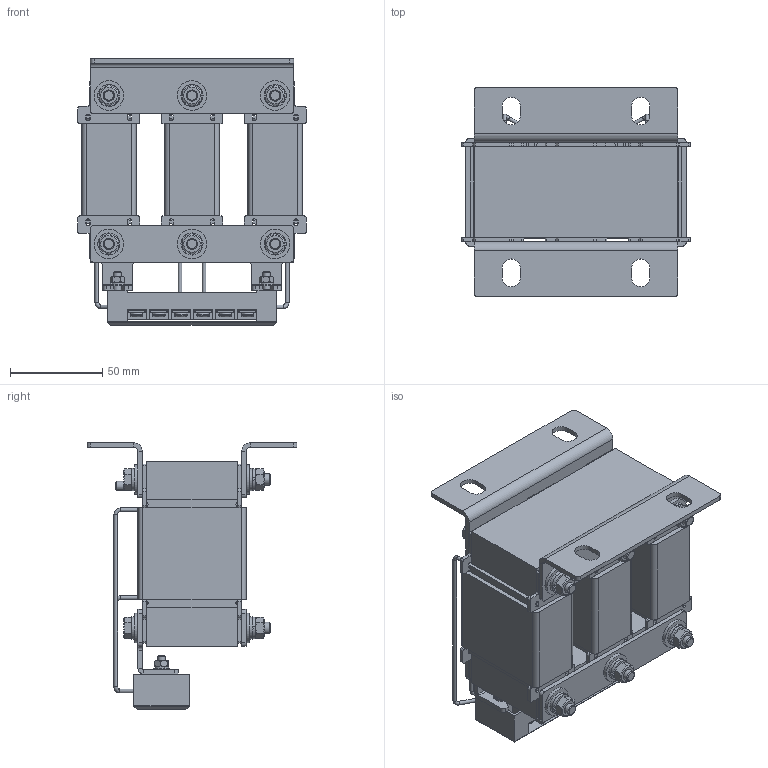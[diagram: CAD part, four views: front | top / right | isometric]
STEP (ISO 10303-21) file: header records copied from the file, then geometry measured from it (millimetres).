
FILE_DESCRIPTION (( 'STEP AP203' ), '1' );
FILE_NAME ('Ñåòåâîé äðîññåëü _ ISF-7.5_20.5-4.STEP', '2026-07-22T06:43:44', ( '' ), ( '' ), 'SwSTEP 2.0', 'SolidWorks 2021', '' );
FILE_SCHEMA (( 'CONFIG_CONTROL_DESIGN' ));
Length unit declared in the file: millimetre
Products named in the file (30): Ëàïà _ 5.5-22_‘â ­¤ àâ ¯®¤ è¯¨«ìªã 01; Êàòóøêà _ 7.5_‹¥¢ ï; Øàéáà ïëîñêàÿ DIN 125 (A)_Œ4; Ëàïà ñî øïèëüêîé çàçåìëåíèÿ _ 5.5-22_‘â ­¤ àâ 01; Ñåòåâîé äðîññåëü _ ISF-7.5_20.5-4; Êàòóøêà ñ êàðêàñîì _ 7.5_–¥­âà «ì­ ï; Óãîëîê êëåììíèêà _ 5.5-7.5_80; ������� � �������� _ 7.5_�ࠢ��; ﾑ褞蒟韭 _ ISF-7.5_01; 昢膼瘔 7.5; Êàòóøêà ñ êàðêàñîì _ 7.5_‹¥¢ ï; Ñòåíêà êàðêàñà êàòóøêè ïîïåðå÷íàÿ _ 7.5_04; Ãàéêà DIN 934_Œ4; Âèíò DIN 7985 PH_Œ4å10; Êðûøêà êëåììíîãî òåðìèíàëà TB-2506 ; Øàéáà ïðóæèííàÿ DIN 127 (A)_Œ4; ������� _ 7.5_�ࠢ��; Êàðêàñ êàòóøêè _ 7.5_04; 肃镟 _ 5.5-22_戔牠噔 01; 孰屐祉 蝈痨桧嚯 TB-2506; Êàòóøêà _ 7.5_–¥­âà «ì­ ï; Øàéáà ïëîñêàÿ DIN 125 (A)_Œ6; Øïèëüêà ïðèâàðíàÿ_Œ5å12; Ñòåíêà êàðêàñà êàòóøêè ïðîäîëüíàÿ _ 7.5_04; Ïëàñòèíà ïðèæèìíàÿ _ 5.5-22_01; Øàéáà ïëîñêàÿ DIN 9021_Œ6 ¯®«¨ ¬¨¤; Ãàéêà DIN 934_Œ6; Áîëò DIN 933_Œ6å75 (-); Øàéáà ïðóæèííàÿ DIN 127 (A)_Œ6; Êîðïóñ êëåììíîãî òåðìèíàëà TB-2506
Assembly tree (74 placements, depth 5):
  Ñåòåâîé äðîññåëü _ ISF-7.5_20.5-4
    ﾑ褞蒟韭 _ ISF-7.5_01
      ������� � �������� _ 7.5_�ࠢ��
        Êàðêàñ êàòóøêè _ 7.5_04
          Ñòåíêà êàðêàñà êàòóøêè ïðîäîëüíàÿ _ 7.5_04  x2
          Ñòåíêà êàðêàñà êàòóøêè ïîïåðå÷íàÿ _ 7.5_04  x2
        ������� _ 7.5_�ࠢ��
      Êàòóøêà ñ êàðêàñîì _ 7.5_–¥­âà «ì­ ï
        Êàðêàñ êàòóøêè _ 7.5_04
          Ñòåíêà êàðêàñà êàòóøêè ïðîäîëüíàÿ _ 7.5_04  x2
          Ñòåíêà êàðêàñà êàòóøêè ïîïåðå÷íàÿ _ 7.5_04  x2
        Êàòóøêà _ 7.5_–¥­âà «ì­ ï
      Êàòóøêà ñ êàðêàñîì _ 7.5_‹¥¢ ï
        Êàðêàñ êàòóøêè _ 7.5_04
          Ñòåíêà êàðêàñà êàòóøêè ïðîäîëüíàÿ _ 7.5_04  x2
          Ñòåíêà êàðêàñà êàòóøêè ïîïåðå÷íàÿ _ 7.5_04  x2
        Êàòóøêà _ 7.5_‹¥¢ ï
      昢膼瘔 7.5
    Óãîëîê êëåììíèêà _ 5.5-7.5_80
    Ïëàñòèíà ïðèæèìíàÿ _ 5.5-22_01
    肃镟 _ 5.5-22_戔牠噔 01
    Ëàïà ñî øïèëüêîé çàçåìëåíèÿ _ 5.5-22_‘â ­¤ àâ 01
      Ëàïà _ 5.5-22_‘â ­¤ àâ ¯®¤ è¯¨«ìªã 01
      Øïèëüêà ïðèâàðíàÿ_Œ5å12
    孰屐祉 蝈痨桧嚯 TB-2506
      Êîðïóñ êëåììíîãî òåðìèíàëà TB-2506
      Êðûøêà êëåììíîãî òåðìèíàëà TB-2506 
    Øàéáà ïëîñêàÿ DIN 9021_Œ6 ¯®«¨ ¬¨¤  x12
    Øàéáà ïëîñêàÿ DIN 125 (A)_Œ6  x12
    Øàéáà ïðóæèííàÿ DIN 127 (A)_Œ6  x6
    Ãàéêà DIN 934_Œ6  x6
    Áîëò DIN 933_Œ6å75 (-)  x6
    Âèíò DIN 7985 PH_Œ4å10  x2
    Øàéáà ïëîñêàÿ DIN 125 (A)_Œ4  x2
    Øàéáà ïðóæèííàÿ DIN 127 (A)_Œ4  x2
    Ãàéêà DIN 934_Œ4  x2
Bounding box: 123.5 x 113.5 x 144.4 mm (x, y, z)
Volume: 599069 mm3; surface area: 281957 mm2
Topology: 103 solids, 103 shells, 2264 faces, 5764 edges, 3757 vertices
Faces by surface type: plane 1393, cylinder 654, cone 147, bspline 40, torus 28, sphere 2
Full cylindrical faces by diameter (mm): 0.75 x1, 2 x24, 3.3 x2, 3.5 x1, 3.9 x48, 4 x2, 4.3 x2, 5 x7, 5.1 x2, 6 x6, 6.4 x24, 6.5 x13, 6.8 x12, 7 x6, 7.5 x2, 8 x2, 8.2 x12, 9 x2, 12 x12, 16 x12
Entity records: 42980 total; most frequent: CARTESIAN_POINT 8267, DIRECTION 6192, ORIENTED_EDGE 6018, EDGE_CURVE 3009, LINE 2088, VECTOR 2088, VERTEX_POINT 2073, AXIS2_PLACEMENT_3D 2052
